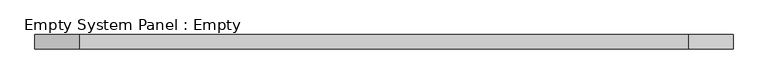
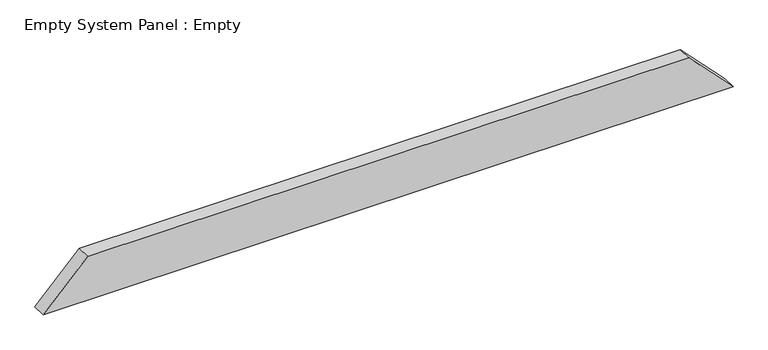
"""IFC4 building model written with IfcOpenShell, lengths in millimetres: plate geometry, Empty System Panel : Empty."""

from ifc_helpers import new_model, si_unit, frame, origin, place, context, project, spatial, polyline, outline, extrude, source, transform, mapped, element, save


def empty_system_panel_empty_e1ce71c8(model_context):
    return source(origin(), model_context, "Body", "SweptSolid", [
        extrude(outline(polyline([(0.0, -2452.1086857), (0.0, 2452.1086857), (330.0, 2136.0260116), (330.0, -2136.0260116), (0.0, -2452.1086857)])), frame((0.0, -50.0, 0.0), z_axis=(0.0, 1.0, 0.0), x_axis=(0.0, 0.0, 1.0)), (0.0, 0.0, 1.0), 100.0),
    ])


if __name__ == "__main__":
    model = new_model("IFC4")
    model_context = context("Model", 3, world=origin())
    ifc_project = project(units=[si_unit("LENGTHUNIT", "METRE", prefix="MILLI")], contexts=[model_context])
    site = spatial("IfcSite", under=ifc_project)
    building = spatial("IfcBuilding", under=site)
    placement = place(None, origin())
    empty_system_panel_empty_shape = empty_system_panel_empty_e1ce71c8(model_context)
    element("IfcPlate", 1, ObjectType="Empty System Panel : Empty", at=placement, inside=building, context=model_context, shape_type="MappedRepresentation", body=[
        mapped(empty_system_panel_empty_shape, transform((0.0, 0.0, 0.0), x_axis=(1.0, 0.0, 0.0), y_axis=(0.0, 1.0, 0.0), z_axis=(0.0, 0.0, 1.0))),
    ])
    save(model, "model.ifc")
